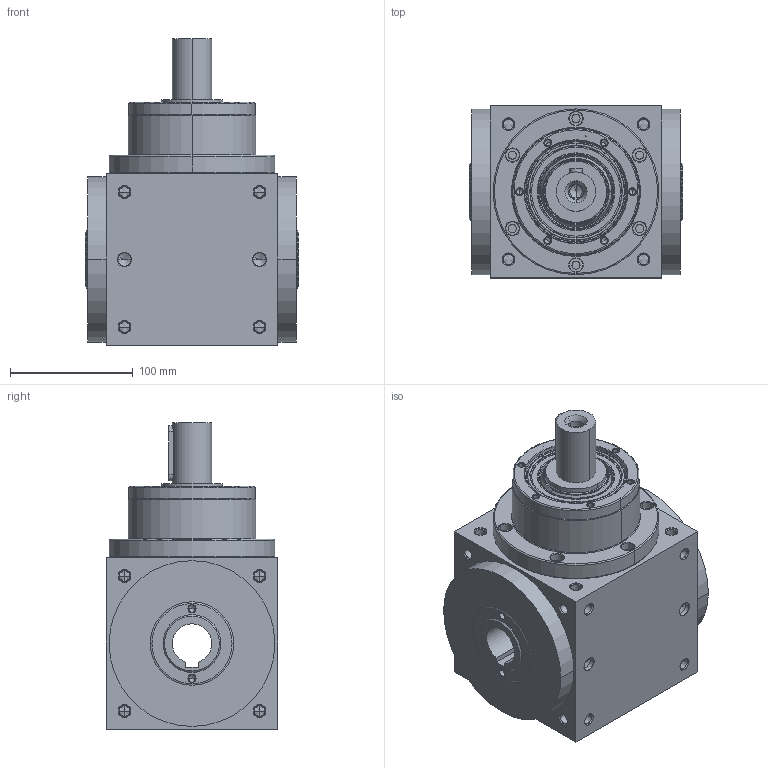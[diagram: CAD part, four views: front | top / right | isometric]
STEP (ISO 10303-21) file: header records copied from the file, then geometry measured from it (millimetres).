
FILE_DESCRIPTION((''),'2;1');
FILE_NAME('AT140H-1_ASM','2009-02-03T',('d00080'),(''),'PRO/ENGINEER BY PARAMETRIC TECHNOLOGY CORPORATION, 2006170','PRO/ENGINEER BY PARAMETRIC TECHNOLOGY CORPORATION, 2006170','');
FILE_SCHEMA(('CONFIG_CONTROL_DESIGN'));
Length unit declared in the file: millimetre
Products named in the file (6): AT140H-1; P1801600001; 22400071006; P1208600001; P0904601001; AT140H-1_ASM
Assembly tree (5 placements, depth 2):
  AT140H-1_ASM
    AT140H-1
    P1801600001
    22400071006
    P1208600001
    P0904601001
Bounding box: 174 x 140 x 250 mm (x, y, z)
Volume: 3399523 mm3; surface area: 281671.5 mm2
Topology: 6 solids, 38 shells, 633 faces, 1553 edges, 916 vertices
Faces by surface type: cylinder 275, cone 238, plane 80, torus 40
Entity records: 19112 total; most frequent: CARTESIAN_POINT 4129, DIRECTION 3375, ORIENTED_EDGE 2828, EDGE_CURVE 1477, AXIS2_PLACEMENT_3D 1414, VERTEX_POINT 916, CIRCLE 762, EDGE_LOOP 750
